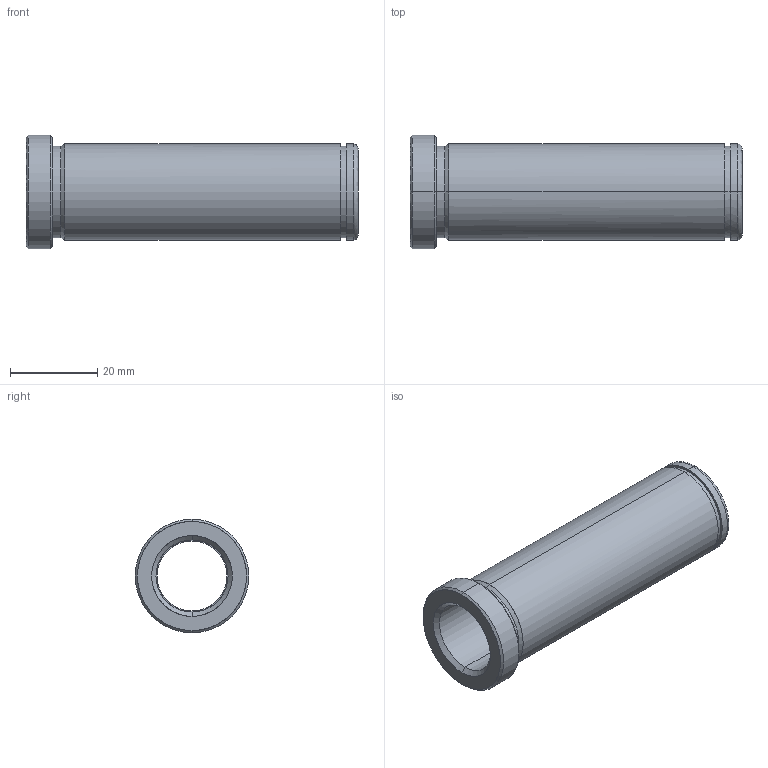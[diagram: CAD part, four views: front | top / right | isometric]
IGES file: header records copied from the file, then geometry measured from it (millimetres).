
Start section: START RECORD GO HERE.
Global section: file name: 553-16X76.igs; native system: DASSAULT SYSTEMES CATIA V5 R20 - www.3ds.com; preprocessor: CATIA Version 5 Release 20 ; author: Utente; organization: NB04-ASUS; date: 20210521.204423; units: millimetre
Bounding box: 76 x 26 x 26 mm (x, y, z)
Surface area: 9814.8 mm2 (no closed solid volume)
Topology: 0 solids, 0 shells, 32 faces, 204 edges, 204 vertices
Faces by surface type: revolution 26, plane 6
